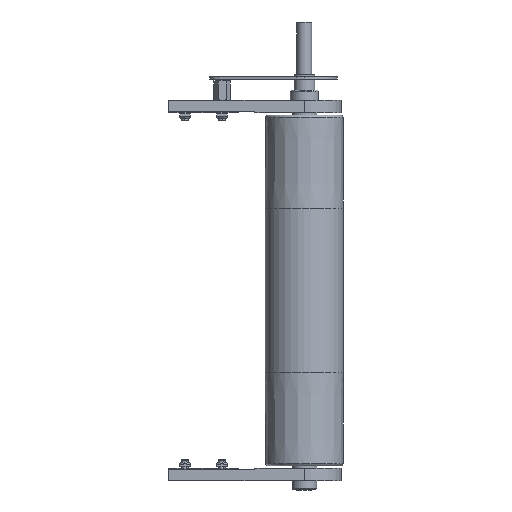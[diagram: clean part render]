
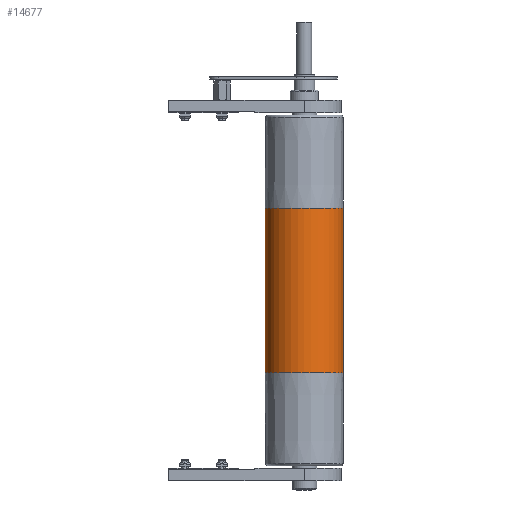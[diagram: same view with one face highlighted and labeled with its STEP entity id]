
A CAD part, front view. The second image highlights one B-rep face of the part: STEP entity #14677.
In plain terms, the highlighted cylindrical face has radius 47.5 mm (diameter 95 mm), a partial arc.
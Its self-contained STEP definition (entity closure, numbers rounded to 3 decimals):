
#76 = CIRCLE ( 'NONE', #24961, 47.5 ) ;
#991 = LINE ( 'NONE', #3552, #994 ) ;
#994 = VECTOR ( 'NONE', #3553, 1000. ) ;
#1223 = LINE ( 'NONE', #10495, #1238 ) ;
#1238 = VECTOR ( 'NONE', #10491, 1000. ) ;
#3552 = CARTESIAN_POINT ( 'NONE',  ( -47.5, 0., 210. ) ) ;
#3553 = DIRECTION ( 'NONE',  ( 0., 0., -1. ) ) ;
#4599 = FACE_OUTER_BOUND ( 'NONE', #25738, .T. ) ;
#4608 = CYLINDRICAL_SURFACE ( 'NONE', #6131, 47.5 ) ;
#6131 = AXIS2_PLACEMENT_3D ( 'NONE', #6983, #6981, #6979 ) ;
#6979 = DIRECTION ( 'NONE',  ( -1., 0., 0. ) ) ;
#6981 = DIRECTION ( 'NONE',  ( 0., 0., -1. ) ) ;
#6983 = CARTESIAN_POINT ( 'NONE',  ( 0., 0., 210. ) ) ;
#8905 = CIRCLE ( 'NONE', #24914, 47.5 ) ;
#9415 = CARTESIAN_POINT ( 'NONE',  ( 0., 0., -100. ) ) ;
#9416 = DIRECTION ( 'NONE',  ( 0., 0., 1. ) ) ;
#9417 = DIRECTION ( 'NONE',  ( 1., 0., 0. ) ) ;
#9726 = CARTESIAN_POINT ( 'NONE',  ( 0., 0., 100. ) ) ;
#9727 = DIRECTION ( 'NONE',  ( 0., 0., 1. ) ) ;
#9728 = DIRECTION ( 'NONE',  ( 1., 0., 0. ) ) ;
#10491 = DIRECTION ( 'NONE',  ( 0., 0., -1. ) ) ;
#10495 = CARTESIAN_POINT ( 'NONE',  ( 47.5, 0., 210. ) ) ;
#14677 = ADVANCED_FACE ( 'NONE', ( #4599 ), #4608, .T. ) ;
#17563 = VERTEX_POINT ( 'NONE', #20100 ) ;
#17564 = VERTEX_POINT ( 'NONE', #20101 ) ;
#17566 = VERTEX_POINT ( 'NONE', #20103 ) ;
#17567 = VERTEX_POINT ( 'NONE', #20104 ) ;
#20100 = CARTESIAN_POINT ( 'NONE',  ( 47.5, 0., 100. ) ) ;
#20101 = CARTESIAN_POINT ( 'NONE',  ( -47.5, 0., 100. ) ) ;
#20103 = CARTESIAN_POINT ( 'NONE',  ( 47.5, 0., -100. ) ) ;
#20104 = CARTESIAN_POINT ( 'NONE',  ( -47.5, 0., -100. ) ) ;
#22084 = EDGE_CURVE ( 'NONE', #17567, #17566, #8905, .T. ) ;
#22201 = EDGE_CURVE ( 'NONE', #17564, #17563, #76, .T. ) ;
#24022 = EDGE_CURVE ( 'NONE', #17564, #17567, #991, .T. ) ;
#24207 = EDGE_CURVE ( 'NONE', #17563, #17566, #1223, .T. ) ;
#24914 = AXIS2_PLACEMENT_3D ( 'NONE', #9415, #9416, #9417 ) ;
#24961 = AXIS2_PLACEMENT_3D ( 'NONE', #9726, #9727, #9728 ) ;
#25548 = ORIENTED_EDGE ( 'NONE', *, *, #22084, .T. ) ;
#25554 = ORIENTED_EDGE ( 'NONE', *, *, #22201, .F. ) ;
#25555 = ORIENTED_EDGE ( 'NONE', *, *, #24207, .F. ) ;
#25556 = ORIENTED_EDGE ( 'NONE', *, *, #24022, .T. ) ;
#25738 = EDGE_LOOP ( 'NONE', ( #25555, #25554, #25556, #25548 ) ) ;
